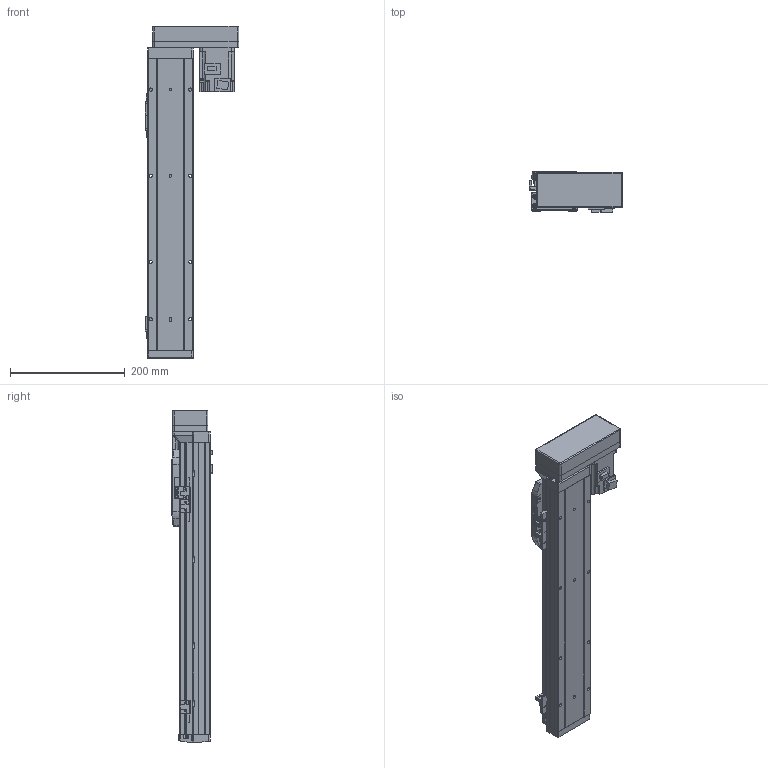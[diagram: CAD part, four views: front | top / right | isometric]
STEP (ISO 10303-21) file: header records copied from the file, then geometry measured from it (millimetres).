
FILE_DESCRIPTION (( 'STEP AP214' ), '1' );
FILE_NAME ('GSH8-350-BL-M20-1.step', '2025-01-07T06:05:33', ( '' ), ( '' ), 'SwSTEP 2.0', 'SolidWorks 2012', '' );
FILE_SCHEMA (( 'AUTOMOTIVE_DESIGN' ));
Length unit declared in the file: millimetre
Products named in the file (5): GSH8-BL-011-350-M20; GSH8-BL-008; GSH8-GY-004; GSH8-350-BL-M20-1; HG-KR23_200W_Motor
Assembly tree (4 placements, depth 2):
  GSH8-350-BL-M20-1
    GSH8-BL-011-350-M20
    GSH8-GY-004
    GSH8-BL-008
    HG-KR23_200W_Motor
Bounding box: 163 x 71.3 x 578.2 mm (x, y, z)
Volume: 1701275.3 mm3; surface area: 393464.8 mm2
Topology: 4 solids, 8 shells, 1103 faces, 2882 edges, 1852 vertices
Faces by surface type: plane 630, cylinder 377, torus 42, cone 26, bspline 24, sphere 4
Entity records: 43260 total; most frequent: CARTESIAN_POINT 9786, DIRECTION 5846, ORIENTED_EDGE 5748, EDGE_CURVE 2874, AXIS2_PLACEMENT_3D 1964, LINE 1918, VECTOR 1918, VERTEX_POINT 1848
